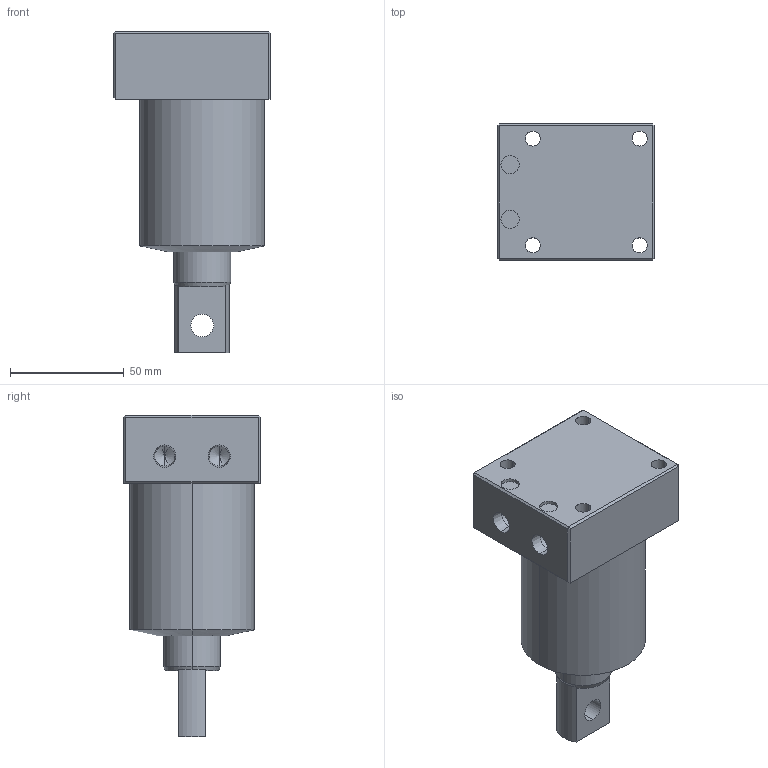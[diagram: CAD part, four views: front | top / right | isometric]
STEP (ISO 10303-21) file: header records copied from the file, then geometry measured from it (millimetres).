
FILE_DESCRIPTION (( 'STEP AP214' ), '1' );
FILE_NAME ('SB03-552-LP-PTYPE-BM.STEP', '2021-08-22T08:25:14', ( '' ), ( '' ), 'SwSTEP 2.0', 'SolidWorks 2019', '' );
FILE_SCHEMA (( 'AUTOMOTIVE_DESIGN' ));
Length unit declared in the file: millimetre
Products named in the file (3): BM-55 BODY; SB03-552-LP-PTYPE-BM; 55-PTYPE-PISTON
Assembly tree (2 placements, depth 2):
  SB03-552-LP-PTYPE-BM
    BM-55 BODY
    55-PTYPE-PISTON
Bounding box: 69 x 60 x 141.5 mm (x, y, z)
Volume: 283551 mm3; surface area: 45884.1 mm2
Topology: 2 solids, 2 shells, 68 faces, 153 edges, 91 vertices
Faces by surface type: plane 29, cylinder 27, cone 12
Entity records: 1990 total; most frequent: DIRECTION 354, CARTESIAN_POINT 325, ORIENTED_EDGE 298, EDGE_CURVE 149, AXIS2_PLACEMENT_3D 136, VERTEX_POINT 91, EDGE_LOOP 84, LINE 82
